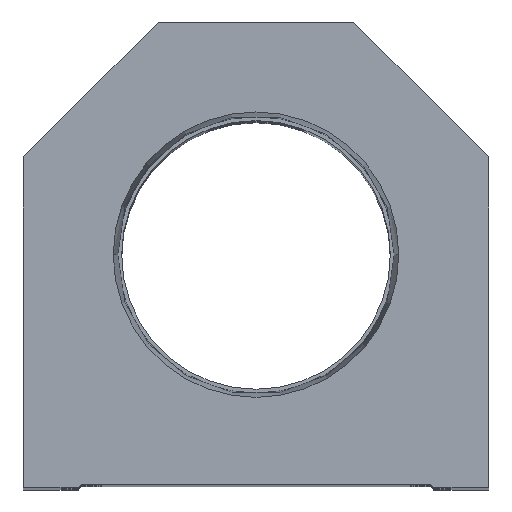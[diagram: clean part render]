
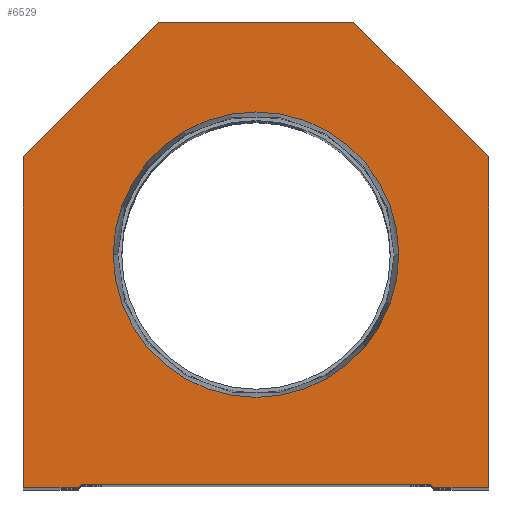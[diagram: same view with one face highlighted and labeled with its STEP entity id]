
A CAD part, top view. The second image highlights one B-rep face of the part: STEP entity #6529.
In plain terms, the highlighted planar face has unit normal (0, 0, 1).
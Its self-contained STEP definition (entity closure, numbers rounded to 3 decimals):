
#193 = DIRECTION ( 'NONE',  ( 1., 0., 0. ) ) ;
#218 = ORIENTED_EDGE ( 'NONE', *, *, #15573, .T. ) ;
#388 = VERTEX_POINT ( 'NONE', #10377 ) ;
#845 = LINE ( 'NONE', #16240, #4525 ) ;
#968 = LINE ( 'NONE', #9831, #4473 ) ;
#1094 = CARTESIAN_POINT ( 'NONE',  ( -38.1, 0., 0. ) ) ;
#1294 = EDGE_CURVE ( 'NONE', #10373, #5816, #10194, .T. ) ;
#1803 = EDGE_CURVE ( 'NONE', #6689, #8821, #2759, .T. ) ;
#1851 = DIRECTION ( 'NONE',  ( 0., 0., 1. ) ) ;
#2337 = DIRECTION ( 'NONE',  ( 0., 0., 1. ) ) ;
#2426 = CARTESIAN_POINT ( 'NONE',  ( 0., 38.1, 0. ) ) ;
#2759 = LINE ( 'NONE', #8523, #16846 ) ;
#2805 = CARTESIAN_POINT ( 'NONE',  ( 28.6, 0., 0. ) ) ;
#3034 = VERTEX_POINT ( 'NONE', #16385 ) ;
#3237 = ORIENTED_EDGE ( 'NONE', *, *, #9600, .T. ) ;
#3296 = CARTESIAN_POINT ( 'NONE',  ( 29.1, 0., 0. ) ) ;
#3389 = VERTEX_POINT ( 'NONE', #10542 ) ;
#3456 = FACE_BOUND ( 'NONE', #15734, .T. ) ;
#3601 = ORIENTED_EDGE ( 'NONE', *, *, #1294, .T. ) ;
#3658 = EDGE_CURVE ( 'NONE', #9267, #3389, #12101, .T. ) ;
#3737 = CARTESIAN_POINT ( 'NONE',  ( -29.1, 0., 0. ) ) ;
#3833 = CARTESIAN_POINT ( 'NONE',  ( -38.1, 54.1, 0. ) ) ;
#4473 = VECTOR ( 'NONE', #6910, 1000. ) ;
#4498 = PLANE ( 'NONE',  #16630 ) ;
#4525 = VECTOR ( 'NONE', #13130, 1000. ) ;
#4536 = DIRECTION ( 'NONE',  ( 1., 0., 0. ) ) ;
#4850 = LINE ( 'NONE', #14768, #11667 ) ;
#5411 = LINE ( 'NONE', #6972, #11371 ) ;
#5515 = ORIENTED_EDGE ( 'NONE', *, *, #3658, .F. ) ;
#5680 = VECTOR ( 'NONE', #9863, 1000. ) ;
#5789 = VECTOR ( 'NONE', #12457, 1000. ) ;
#5816 = VERTEX_POINT ( 'NONE', #10004 ) ;
#5939 = ORIENTED_EDGE ( 'NONE', *, *, #9175, .T. ) ;
#6270 = LINE ( 'NONE', #13549, #11546 ) ;
#6529 = ADVANCED_FACE ( 'NONE', ( #3456, #15303 ), #4498, .T. ) ;
#6689 = VERTEX_POINT ( 'NONE', #14123 ) ;
#6878 = EDGE_CURVE ( 'NONE', #5816, #388, #4850, .T. ) ;
#6910 = DIRECTION ( 'NONE',  ( 0.707, -0.707, 0. ) ) ;
#6972 = CARTESIAN_POINT ( 'NONE',  ( -14.55, 14.55, 0. ) ) ;
#7010 = EDGE_CURVE ( 'NONE', #18118, #14339, #5411, .T. ) ;
#7370 = CARTESIAN_POINT ( 'NONE',  ( -16., 76.2, 0. ) ) ;
#8310 = EDGE_CURVE ( 'NONE', #8821, #3034, #16956, .T. ) ;
#8523 = CARTESIAN_POINT ( 'NONE',  ( 16., 76.2, 0. ) ) ;
#8657 = CARTESIAN_POINT ( 'NONE',  ( 38.1, 54.1, 0. ) ) ;
#8736 = DIRECTION ( 'NONE',  ( 1., 0., 0. ) ) ;
#8821 = VERTEX_POINT ( 'NONE', #7370 ) ;
#9175 = EDGE_CURVE ( 'NONE', #10815, #18118, #10716, .T. ) ;
#9194 = CIRCLE ( 'NONE', #16331, 23.374 ) ;
#9267 = VERTEX_POINT ( 'NONE', #17250 ) ;
#9600 = EDGE_CURVE ( 'NONE', #18323, #10373, #968, .T. ) ;
#9831 = CARTESIAN_POINT ( 'NONE',  ( 14.55, 14.55, 0. ) ) ;
#9863 = DIRECTION ( 'NONE',  ( -0.707, 0.707, 0. ) ) ;
#10004 = CARTESIAN_POINT ( 'NONE',  ( 38.1, 0., 0. ) ) ;
#10194 = LINE ( 'NONE', #2805, #15891 ) ;
#10253 = AXIS2_PLACEMENT_3D ( 'NONE', #2426, #2337, #14206 ) ;
#10373 = VERTEX_POINT ( 'NONE', #3296 ) ;
#10377 = CARTESIAN_POINT ( 'NONE',  ( 38.1, 54.1, 0. ) ) ;
#10411 = DIRECTION ( 'NONE',  ( 0., 0., 1. ) ) ;
#10525 = ORIENTED_EDGE ( 'NONE', *, *, #17868, .T. ) ;
#10542 = CARTESIAN_POINT ( 'NONE',  ( 23.374, 38.1, 0. ) ) ;
#10716 = LINE ( 'NONE', #13827, #16574 ) ;
#10815 = VERTEX_POINT ( 'NONE', #1094 ) ;
#11334 = DIRECTION ( 'NONE',  ( 0.707, 0.707, 0. ) ) ;
#11371 = VECTOR ( 'NONE', #11334, 1000. ) ;
#11546 = VECTOR ( 'NONE', #4536, 1000. ) ;
#11667 = VECTOR ( 'NONE', #15330, 1000. ) ;
#12101 = CIRCLE ( 'NONE', #10253, 23.374 ) ;
#12457 = DIRECTION ( 'NONE',  ( -0.707, -0.707, 0. ) ) ;
#13130 = DIRECTION ( 'NONE',  ( 0., -1., 0. ) ) ;
#13157 = DIRECTION ( 'NONE',  ( -1., 0., 0. ) ) ;
#13549 = CARTESIAN_POINT ( 'NONE',  ( -28.6, 0.5, 0. ) ) ;
#13601 = CARTESIAN_POINT ( 'NONE',  ( 0., 0., 0. ) ) ;
#13827 = CARTESIAN_POINT ( 'NONE',  ( -28.6, 0., 0. ) ) ;
#14123 = CARTESIAN_POINT ( 'NONE',  ( 16., 76.2, 0. ) ) ;
#14206 = DIRECTION ( 'NONE',  ( 1., 0., 0. ) ) ;
#14339 = VERTEX_POINT ( 'NONE', #14774 ) ;
#14535 = EDGE_CURVE ( 'NONE', #14339, #18323, #6270, .T. ) ;
#14768 = CARTESIAN_POINT ( 'NONE',  ( 38.1, 0., 0. ) ) ;
#14774 = CARTESIAN_POINT ( 'NONE',  ( -28.6, 0.5, 0. ) ) ;
#15216 = EDGE_LOOP ( 'NONE', ( #5939, #15460, #18169, #3237, #3601, #18764, #218, #15345, #17833, #10525 ) ) ;
#15303 = FACE_OUTER_BOUND ( 'NONE', #15216, .T. ) ;
#15321 = ORIENTED_EDGE ( 'NONE', *, *, #19141, .F. ) ;
#15330 = DIRECTION ( 'NONE',  ( 0., 1., 0. ) ) ;
#15345 = ORIENTED_EDGE ( 'NONE', *, *, #1803, .T. ) ;
#15400 = DIRECTION ( 'NONE',  ( 1., 0., 0. ) ) ;
#15460 = ORIENTED_EDGE ( 'NONE', *, *, #7010, .T. ) ;
#15573 = EDGE_CURVE ( 'NONE', #388, #6689, #15861, .T. ) ;
#15734 = EDGE_LOOP ( 'NONE', ( #15321, #5515 ) ) ;
#15861 = LINE ( 'NONE', #8657, #5680 ) ;
#15891 = VECTOR ( 'NONE', #8736, 1000. ) ;
#16240 = CARTESIAN_POINT ( 'NONE',  ( -38.1, 0., 0. ) ) ;
#16331 = AXIS2_PLACEMENT_3D ( 'NONE', #16421, #10411, #193 ) ;
#16385 = CARTESIAN_POINT ( 'NONE',  ( -38.1, 54.1, 0. ) ) ;
#16410 = CARTESIAN_POINT ( 'NONE',  ( 28.6, 0.5, 0. ) ) ;
#16421 = CARTESIAN_POINT ( 'NONE',  ( 0., 38.1, 0. ) ) ;
#16574 = VECTOR ( 'NONE', #15400, 1000. ) ;
#16616 = DIRECTION ( 'NONE',  ( 1., 0., 0. ) ) ;
#16630 = AXIS2_PLACEMENT_3D ( 'NONE', #13601, #1851, #16616 ) ;
#16846 = VECTOR ( 'NONE', #13157, 1000. ) ;
#16956 = LINE ( 'NONE', #3833, #5789 ) ;
#17250 = CARTESIAN_POINT ( 'NONE',  ( -23.374, 38.1, 0. ) ) ;
#17833 = ORIENTED_EDGE ( 'NONE', *, *, #8310, .T. ) ;
#17868 = EDGE_CURVE ( 'NONE', #3034, #10815, #845, .T. ) ;
#18118 = VERTEX_POINT ( 'NONE', #3737 ) ;
#18169 = ORIENTED_EDGE ( 'NONE', *, *, #14535, .T. ) ;
#18323 = VERTEX_POINT ( 'NONE', #16410 ) ;
#18764 = ORIENTED_EDGE ( 'NONE', *, *, #6878, .T. ) ;
#19141 = EDGE_CURVE ( 'NONE', #3389, #9267, #9194, .T. ) ;
